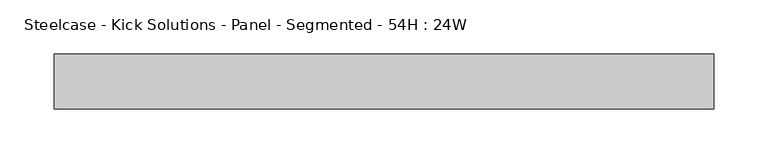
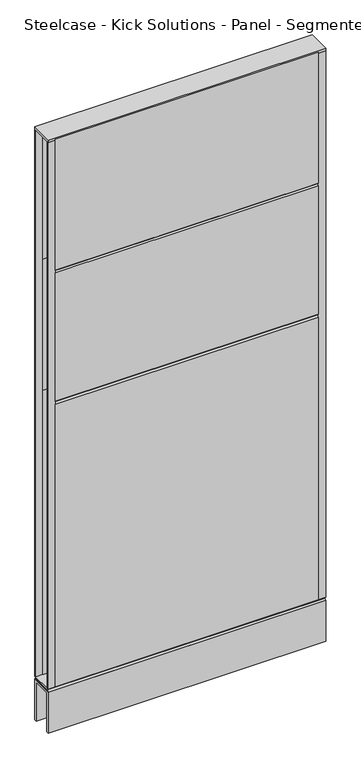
"""IFC4 building model written with IfcOpenShell, lengths in millimetres: furniture geometry, Steelcase - Kick Solutions - Panel - Segmented - 54H : 24W."""

from ifc_helpers import new_model, si_unit, frame, origin, place, context, project, spatial, polyline, outline, extrude, source, transform, mapped, element, save


def steelcase_kick_solutions_panel_segmented_54h_24w_ba6e6e67(model_context):
    return source(origin(), model_context, "Body", "SweptSolid", [
        extrude(outline(polyline([(1.5e-06, 765.0811552), (-3.175, 762.0), (-3.175, 1066.8), (1.5e-06, 1063.7188448), (1.5e-06, 765.0811552)])), frame((15.8749996, 0.0, 0.0), z_axis=(1.0, 0.0, 0.0), x_axis=(0.0, 1.0, 0.0)), (0.0, 0.0, 1.0), 577.8500008),
        extrude(outline(polyline([(1.5e-06, 1069.8811552), (-3.175, 1066.8), (-3.175, 1371.6), (1.5e-06, 1368.5188448), (1.5e-06, 1069.8811552)])), frame((15.8749996, 0.0, 0.0), z_axis=(1.0, 0.0, 0.0), x_axis=(0.0, 1.0, 0.0)), (0.0, 0.0, 1.0), 577.8500008),
        extrude(outline(polyline([(1.5e-06, 101.600003), (-3.175, 101.600003), (-3.175, 762.0), (1.5e-06, 758.9188448), (1.5e-06, 101.600003)])), frame((15.8749996, 0.0, 0.0), z_axis=(1.0, 0.0, 0.0), x_axis=(0.0, 1.0, 0.0)), (0.0, 0.0, 1.0), 577.8500008),
        extrude(outline(polyline([(-50.8000015, 1069.8811552), (-50.8000015, 1374.648), (-47.625, 1371.6), (-47.625, 1066.8), (-50.8000015, 1069.8811552)])), frame((15.8749996, 0.0, 0.0), z_axis=(1.0, 0.0, 0.0), x_axis=(0.0, 1.0, 0.0)), (0.0, 0.0, 1.0), 577.8500008),
        extrude(outline(polyline([(-50.8000015, 765.0811552), (-50.8000015, 1063.7188448), (-47.625, 1066.8), (-47.625, 762.0), (-50.8000015, 765.0811552)])), frame((15.8749996, 0.0, 0.0), z_axis=(1.0, 0.0, 0.0), x_axis=(0.0, 1.0, 0.0)), (0.0, 0.0, 1.0), 577.8500008),
        extrude(outline(polyline([(-50.8000015, 101.600003), (-50.8000015, 758.9188448), (-47.625, 762.0), (-47.625, 101.600003), (-50.8000015, 101.600003)])), frame((15.8749996, 0.0, 0.0), z_axis=(1.0, 0.0, 0.0), x_axis=(0.0, 1.0, 0.0)), (0.0, 0.0, 1.0), 577.8500008),
        extrude(outline(polyline([(609.6, -3.1750015), (593.7250004, -3.1750015), (593.7250004, 0.0), (609.6, 0.0), (609.6, -3.1750015)])), frame((0.0, 0.0, 101.7169049), z_axis=(0.0, 0.0, 1.0), x_axis=(1.0, 0.0, 0.0)), (0.0, 0.0, 1.0), 1269.999997),
        extrude(outline(polyline([(15.8749996, -50.8000015), (0.0, -50.8000015), (0.0, -47.625), (15.8749996, -47.625), (15.8749996, -50.8000015)])), frame((0.0, 0.0, 101.7169049), z_axis=(0.0, 0.0, 1.0), x_axis=(1.0, 0.0, 0.0)), (0.0, 0.0, 1.0), 1269.999997),
        extrude(outline(polyline([(-50.7995075, 101.7169049), (-0.000494, 101.7169049), (-3.0583512, 98.5421458), (-47.7416503, 98.5421458), (-50.7995075, 101.7169049)])), frame((0.0, 0.0, 0.0), z_axis=(1.0, 0.0, 0.0), x_axis=(0.0, 1.0, 0.0)), (0.0, 0.0, 1.0), 609.6),
        extrude(outline(polyline([(609.6, 0.0), (609.6, -50.8000015), (0.0, -50.8000015), (0.0, 0.0), (609.6, 0.0)])), frame((0.0, 0.0, 1371.7169018), z_axis=(0.0, 0.0, 1.0), x_axis=(1.0, 0.0, 0.0)), (0.0, 0.0, 1.0), 6.35),
        extrude(outline(polyline([(15.8749996, -3.1750015), (0.0, -3.1750015), (0.0, 0.0), (15.8749996, 0.0), (15.8749996, -3.1750015)])), frame((0.0, 0.0, 101.7169049), z_axis=(0.0, 0.0, 1.0), x_axis=(1.0, 0.0, 0.0)), (0.0, 0.0, 1.0), 1269.999997),
        extrude(outline(polyline([(609.6, -50.8000015), (593.7250004, -50.8000015), (593.7250004, -47.625), (609.6, -47.625), (609.6, -50.8000015)])), frame((0.0, 0.0, 101.7169049), z_axis=(0.0, 0.0, 1.0), x_axis=(1.0, 0.0, 0.0)), (0.0, 0.0, 1.0), 1269.999997),
        extrude(outline(polyline([(-50.8000015, 95.3668927), (-47.6247484, 98.5421458), (-3.1752531, 98.5421458), (0.0, 95.3668927), (-50.8000015, 95.3668927)])), frame((0.0, 0.0, 0.0), z_axis=(1.0, 0.0, 0.0), x_axis=(0.0, 1.0, 0.0)), (0.0, 0.0, 1.0), 609.6),
        extrude(outline(polyline([(0.0, 0.0), (-5.08, 0.0), (-5.08, 90.2869018), (-45.7200015, 90.2869018), (-45.7200015, 0.0), (-50.8000015, 0.0), (-50.8000015, 95.3669018), (0.0, 95.3669018), (0.0, 0.0)])), frame((0.0, 0.0, 0.0), z_axis=(1.0, 0.0, 0.0), x_axis=(0.0, 1.0, 0.0)), (0.0, 0.0, 1.0), 609.6),
    ])


if __name__ == "__main__":
    model = new_model("IFC4")
    model_context = context("Model", 3, world=origin())
    ifc_project = project(units=[si_unit("LENGTHUNIT", "METRE", prefix="MILLI")], contexts=[model_context])
    site = spatial("IfcSite", under=ifc_project)
    building = spatial("IfcBuilding", under=site)
    placement = place(None, origin())
    steelcase_kick_solutions_panel_segmented_54h_24w_shape = steelcase_kick_solutions_panel_segmented_54h_24w_ba6e6e67(model_context)
    element("IfcFurniture", 1, ObjectType="Steelcase - Kick Solutions - Panel - Segmented - 54H : 24W", at=placement, inside=building, context=model_context, shape_type="MappedRepresentation", body=[
        mapped(steelcase_kick_solutions_panel_segmented_54h_24w_shape, transform((0.0, 0.0, 0.0), x_axis=(1.0, 0.0, 0.0), y_axis=(0.0, 1.0, 0.0), z_axis=(0.0, 0.0, 1.0))),
    ])
    save(model, "model.ifc")
